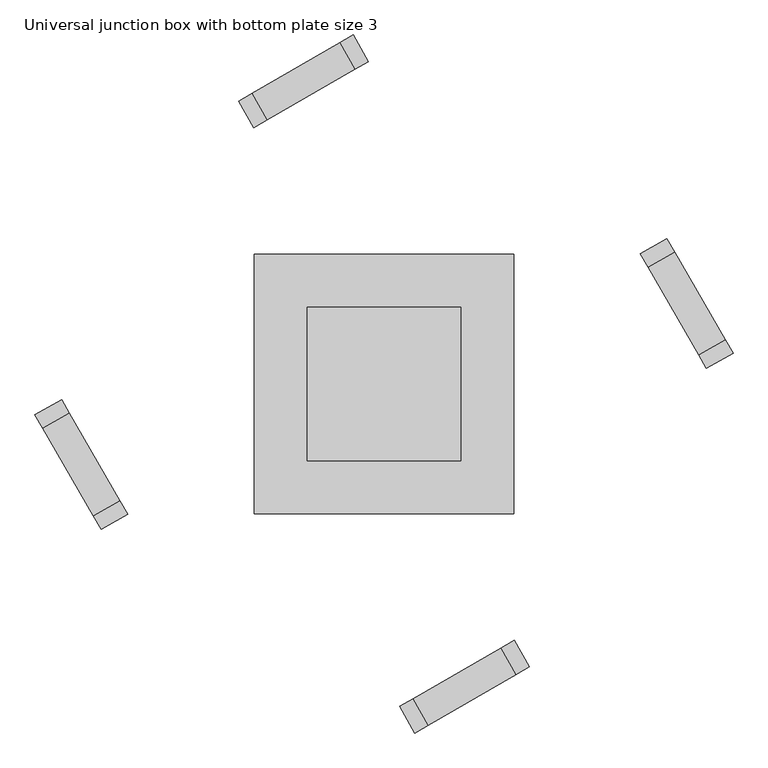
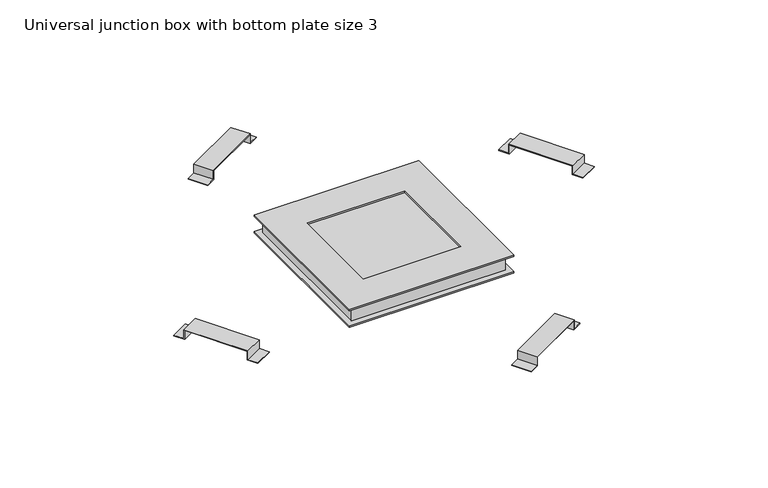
"""IFC4 building model written with IfcOpenShell, lengths in millimetres: cable carrier fitting geometry, Electrical-Installations_Hager_Universal-Junction-Box-With-Bottom-Plate-Size-3-Angled : Universal junction box with bottom plate size 3."""

from ifc_helpers import new_model, si_unit, frame, origin, place, context, project, spatial, polyline, outline, extrude, faceted_brep, source, transform, mapped, element, save


def universal_junction_box_with_bottom_plate_size_3_7e383dc2(model_context):
    return source(origin(), model_context, "Body", "SolidModel", [
        extrude(outline(polyline([(0.0, 0.0), (32.0, 0.0), (32.0, -28.0), (222.0000001, -28.0), (222.0000001, 0.0), (254.0, 0.0), (254.0, -2.0), (224.0, -2.0), (224.0, -30.0), (30.0, -30.0), (30.0, -2.0), (0.0, -2.0), (0.0, 0.0)])), frame((-249.7352263, 492.1444444, -14.0), z_axis=(-0.49999999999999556, 0.8660254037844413, 0.0), x_axis=(0.8660254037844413, 0.49999999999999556, 0.0)), (0.0, 0.0, 1.0), 59.0),
        extrude(outline(polyline([(0.0, 0.0), (0.0, -2.0), (-30.0, -2.0), (-30.0, -30.0), (-224.0, -30.0), (-224.0, -2.0), (-254.0, -2.0), (-254.0, 0.0), (-222.0000001, 0.0), (-222.0000001, -28.0), (-32.0, -28.0), (-32.0, 0.0), (0.0, 0.0)])), frame((-543.2399432, -279.2352263, -14.0), z_axis=(0.8660254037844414, 0.4999999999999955, 0.0), x_axis=(0.4999999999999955, -0.8660254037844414, 0.0)), (0.0, 0.0, 1.0), 59.0),
        extrude(outline(polyline([(0.0, 0.0), (32.0, 0.0), (32.0, -28.0), (222.0000001, -28.0), (222.0000001, 0.0), (254.0, 0.0), (254.0, -2.0), (224.0, -2.0), (224.0, -30.0), (30.0, -30.0), (30.0, -2.0), (0.0, -2.0), (0.0, 0.0)])), frame((59.2647737, -670.2399432, -14.0), z_axis=(-0.4999999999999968, 0.8660254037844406, 0.0), x_axis=(0.8660254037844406, 0.4999999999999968, 0.0)), (0.0, 0.0, 1.0), 59.0),
        extrude(outline(polyline([(0.0, 0.0), (0.0, -2.0), (-30.0, -2.0), (-30.0, -30.0), (-224.0, -30.0), (-224.0, -2.0), (-254.0, -2.0), (-254.0, 0.0), (-222.0000001, 0.0), (-222.0000001, -28.0), (-32.0, -28.0), (-32.0, 0.0), (0.0, 0.0)])), frame((619.1444444, 29.7647737, -14.0), z_axis=(0.8660254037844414, 0.4999999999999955, 0.0), x_axis=(0.4999999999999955, -0.8660254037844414, 0.0)), (0.0, 0.0, 1.0), 59.0),
        faceted_brep([(-249.0, -249.0, 39.0), (249.0, -249.0, 39.0), (249.0, 249.0, 39.0), (-249.0, 249.0, 39.0), (-147.0, 147.0, 39.0), (147.0, 147.0, 39.0), (147.0, -147.0, 39.0), (-147.0, -147.0, 39.0), (-249.0, -249.0, 34.0), (-249.0, 249.0, 34.0), (249.0, 249.0, 34.0), (249.0, -249.0, 34.0), (227.0, 227.0, 34.0), (-227.0, 227.0, 34.0), (-227.0, -227.0, 34.0), (227.0, -227.0, 34.0), (-147.0, 147.0, 34.7820613), (147.0, 147.0, 34.7820613), (147.0, -147.0, 34.7820613), (-147.0, -147.0, 34.7820613), (227.0, 227.0, 34.7820613), (227.0, -227.0, 34.7820613), (-227.0, -227.0, 34.7820613), (-227.0, 227.0, 34.7820613)], [[[0, 1, 2, 3], [4, 5, 6, 7]], [[8, 9, 10, 11], [12, 13, 14, 15]], [[1, 0, 8, 11]], [[2, 1, 11, 10]], [[3, 2, 10, 9]], [[0, 3, 9, 8]], [[5, 4, 16, 17]], [[6, 5, 17, 18]], [[7, 6, 18, 19]], [[4, 7, 19, 16]], [[20, 21, 22, 23], [17, 16, 19, 18]], [[20, 23, 13, 12]], [[23, 22, 14, 13]], [[22, 21, 15, 14]], [[21, 20, 12, 15]]]),
        extrude(outline(polyline([(249.0, 249.0), (249.0, -249.0), (-249.0, -249.0), (-249.0, 249.0), (249.0, 249.0)])), frame((0.0, 0.0, -19.0), z_axis=(0.0, 0.0, 1.0), x_axis=(1.0, 0.0, 0.0)), (0.0, 0.0, 1.0), 5.0),
        faceted_brep([(-233.0, 233.0, 34.0), (-233.0, -233.0, 34.0), (233.0, -233.0, 34.0), (233.0, 233.0, 34.0), (-227.0, 227.0, 34.0), (227.0, 227.0, 34.0), (227.0, -227.0, 34.0), (-227.0, -227.0, 34.0), (-233.0, 233.0, -14.0), (233.0, 233.0, -14.0), (233.0, -233.0, -14.0), (-233.0, -233.0, -14.0), (227.0, 227.0, -6.1362798), (-227.0, 227.0, -6.1362798), (-227.0, -227.0, -6.1362798), (227.0, -227.0, -6.1362798)], [[[0, 1, 2, 3], [4, 5, 6, 7]], [[8, 9, 10, 11]], [[1, 0, 8, 11]], [[2, 1, 11, 10]], [[3, 2, 10, 9]], [[0, 3, 9, 8]], [[12, 13, 14, 15]], [[13, 12, 5, 4]], [[14, 13, 4, 7]], [[15, 14, 7, 6]], [[12, 15, 6, 5]]]),
    ])


if __name__ == "__main__":
    model = new_model("IFC4")
    model_context = context("Model", 3, world=origin())
    ifc_project = project(units=[si_unit("LENGTHUNIT", "METRE", prefix="MILLI")], contexts=[model_context])
    site = spatial("IfcSite", under=ifc_project)
    building = spatial("IfcBuilding", under=site)
    placement = place(None, origin())
    universal_junction_box_with_bottom_plate_size_3_shape = universal_junction_box_with_bottom_plate_size_3_7e383dc2(model_context)
    element("IfcCableCarrierFitting", 1, ObjectType="Electrical-Installations_Hager_Universal-Junction-Box-With-Bottom-Plate-Size-3-Angled : Universal junction box with bottom plate size 3", at=placement, inside=building, context=model_context, shape_type="MappedRepresentation", body=[
        mapped(universal_junction_box_with_bottom_plate_size_3_shape, transform((0.0, 0.0, 0.0), x_axis=(1.0, 0.0, 0.0), y_axis=(0.0, 1.0, 0.0), z_axis=(0.0, 0.0, 1.0))),
    ])
    save(model, "model.ifc")
